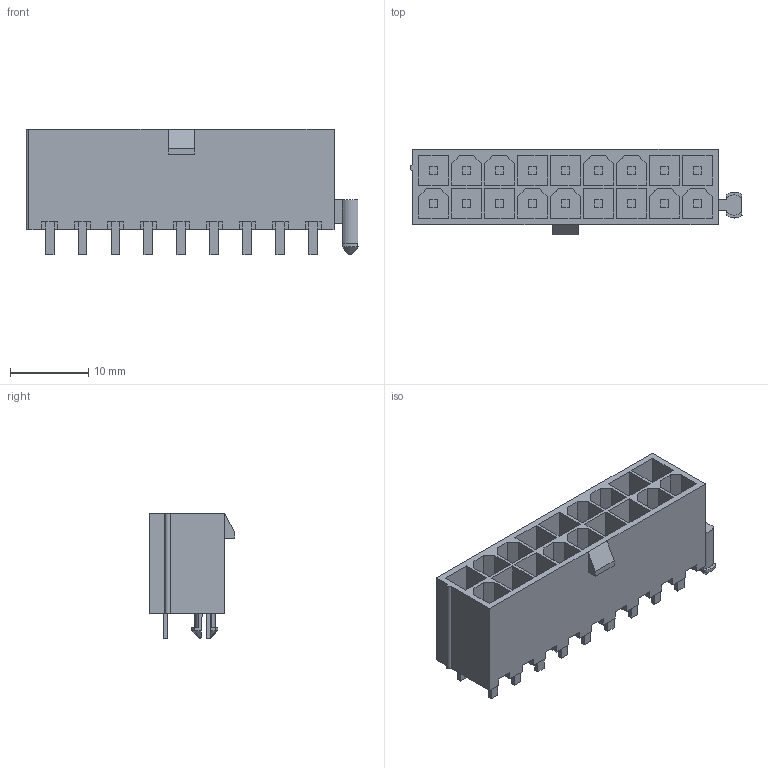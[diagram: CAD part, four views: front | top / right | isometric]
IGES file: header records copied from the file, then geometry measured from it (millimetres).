
Start section:  PTC IGES file: c-3-1775099-6-e-3d.igs
Global section: file name: c-3-1775099-6-e-3d.igs; native system: Creo Parametric by PTC Inc.; preprocessor: 2016050; author: workeradm; organization: Unknown; units: millimetre
Bounding box: 42.3 x 10.9 x 16 mm (x, y, z)
Surface area: 5234.5 mm2 (no closed solid volume)
Topology: 0 solids, 0 shells, 410 faces, 2102 edges, 2102 vertices
Faces by surface type: bspline 398, revolution 12
